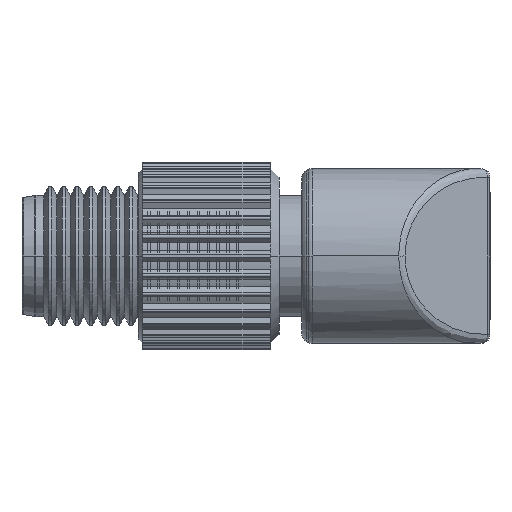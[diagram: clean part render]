
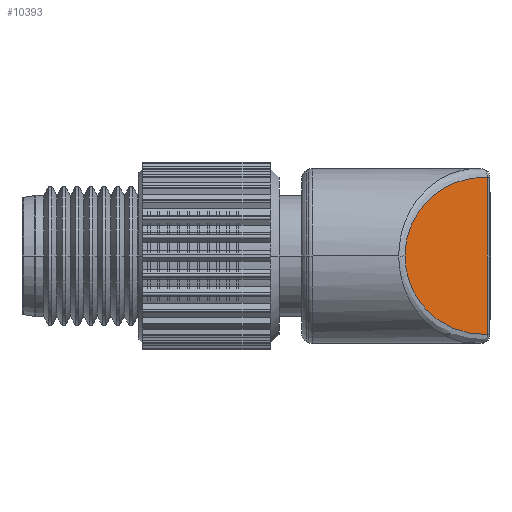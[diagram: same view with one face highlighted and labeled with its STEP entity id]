
A CAD part, front view. The second image highlights one B-rep face of the part: STEP entity #10393.
In plain terms, the highlighted planar face has unit normal (0.707, -0.707, 0).
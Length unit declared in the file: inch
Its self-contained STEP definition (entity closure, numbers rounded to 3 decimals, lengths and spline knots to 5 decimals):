
#2980=DIRECTION('',(0.,0.,-1.));
#2981=VECTOR('',#2980,0.34961);
#2982=CARTESIAN_POINT('',(0.77814,-0.00586,
0.1748));
#2983=LINE('',#2982,#2981);
#2984=CARTESIAN_POINT('',(0.77814,-0.00586,
-0.17481));
#2985=CARTESIAN_POINT('',(0.77383,-0.01017,
-0.17501));
#2986=CARTESIAN_POINT('',(0.76493,-0.01907,
-0.17512));
#2987=CARTESIAN_POINT('',(0.75044,-0.03356,
-0.17413));
#2988=CARTESIAN_POINT('',(0.73559,-0.04841,
-0.17184));
#2989=CARTESIAN_POINT('',(0.72056,-0.06344,
-0.16815));
#2990=CARTESIAN_POINT('',(0.70575,-0.07825,
-0.16309));
#2991=CARTESIAN_POINT('',(0.69135,-0.09265,
-0.15667));
#2992=CARTESIAN_POINT('',(0.67743,-0.10657,
-0.14889));
#2993=CARTESIAN_POINT('',(0.66399,-0.12001,
-0.13967));
#2994=CARTESIAN_POINT('',(0.65124,-0.13276,
-0.12901));
#2995=CARTESIAN_POINT('',(0.64,-0.144,
-0.11764));
#2996=CARTESIAN_POINT('',(0.63074,-0.15326,
-0.10647));
#2997=CARTESIAN_POINT('',(0.62307,-0.16093,
-0.09557));
#2998=CARTESIAN_POINT('',(0.61664,-0.16736,
-0.08484));
#2999=CARTESIAN_POINT('',(0.61134,-0.17266,
-0.07443));
#3000=CARTESIAN_POINT('',(0.60712,-0.17688,
-0.06462));
#3001=CARTESIAN_POINT('',(0.60367,-0.18033,
-0.05514));
#3002=CARTESIAN_POINT('',(0.60067,-0.18333,
-0.04516));
#3003=CARTESIAN_POINT('',(0.59816,-0.18584,
-0.03441));
#3004=CARTESIAN_POINT('',(0.59635,-0.18765,
-0.02364));
#3005=CARTESIAN_POINT('',(0.59519,-0.18881,
-0.01266));
#3006=CARTESIAN_POINT('',(0.59486,-0.18914,
-0.00434));
#3007=CARTESIAN_POINT('',(0.59486,-0.18914,0.));
#3009=CARTESIAN_POINT('',(0.59486,-0.18914,0.));
#3010=CARTESIAN_POINT('',(0.59486,-0.18914,
0.00382));
#3011=CARTESIAN_POINT('',(0.59511,-0.18889,
0.01135));
#3012=CARTESIAN_POINT('',(0.59614,-0.18786,
0.02204));
#3013=CARTESIAN_POINT('',(0.59787,-0.18613,
0.03294));
#3014=CARTESIAN_POINT('',(0.60017,-0.18383,
0.04318));
#3015=CARTESIAN_POINT('',(0.60294,-0.18106,
0.05288));
#3016=CARTESIAN_POINT('',(0.60641,-0.17759,
0.06287));
#3017=CARTESIAN_POINT('',(0.61095,-0.17305,
0.07364));
#3018=CARTESIAN_POINT('',(0.61666,-0.16734,
0.08492));
#3019=CARTESIAN_POINT('',(0.6237,-0.1603,
0.09659));
#3020=CARTESIAN_POINT('',(0.63246,-0.15154,
0.10876));
#3021=CARTESIAN_POINT('',(0.64308,-0.14092,
0.12101));
#3022=CARTESIAN_POINT('',(0.65498,-0.12902,
0.13235));
#3023=CARTESIAN_POINT('',(0.66757,-0.11643,
0.14229));
#3024=CARTESIAN_POINT('',(0.68084,-0.10316,
0.15095));
#3025=CARTESIAN_POINT('',(0.69481,-0.08919,
0.15835));
#3026=CARTESIAN_POINT('',(0.70924,-0.07476,
0.16441));
#3027=CARTESIAN_POINT('',(0.72384,-0.06016,
0.16906));
#3028=CARTESIAN_POINT('',(0.73828,-0.04572,
0.17233));
#3029=CARTESIAN_POINT('',(0.75233,-0.03167,
0.1743));
#3030=CARTESIAN_POINT('',(0.76549,-0.01851,
0.1751));
#3031=CARTESIAN_POINT('',(0.77399,-0.01001,
0.175));
#3032=CARTESIAN_POINT('',(0.77814,-0.00586,
0.1748));
#5898=CARTESIAN_POINT('',(0.77814,-0.00586,
0.1748));
#5899=CARTESIAN_POINT('',(0.77814,-0.00586,
-0.17481));
#5900=VERTEX_POINT('',#5898);
#5901=VERTEX_POINT('',#5899);
#5906=VERTEX_POINT('',#3007);
#10382=CARTESIAN_POINT('',(0.784,0.,-0.5));
#10383=DIRECTION('',(-0.707,0.707,0.));
#10384=DIRECTION('',(-0.707,-0.707,0.));
#10385=AXIS2_PLACEMENT_3D('',#10382,#10383,#10384);
#10386=PLANE('',#10385);
#10388=ORIENTED_EDGE('',*,*,#10387,.T.);
#10389=ORIENTED_EDGE('',*,*,#10265,.T.);
#10390=ORIENTED_EDGE('',*,*,#10373,.T.);
#10391=EDGE_LOOP('',(#10388,#10389,#10390));
#10392=FACE_OUTER_BOUND('',#10391,.F.);
#10393=ADVANCED_FACE('',(#10392),#10386,.F.);
#3008=B_SPLINE_CURVE_WITH_KNOTS('',3,(#2984,#2985,#2986,#2987,#2988,#2989,#2990,
#2991,#2992,#2993,#2994,#2995,#2996,#2997,#2998,#2999,#3000,#3001,#3002,#3003,
#3004,#3005,#3006,#3007),.UNSPECIFIED.,.F.,.F.,(4,1,1,1,1,1,1,1,1,1,1,1,1,1,1,1,
1,1,1,1,1,4),(0.,0.04762,0.09524,0.14286,
0.19048,0.2381,0.28571,0.33333,
0.38095,0.42857,0.47619,0.52381,
0.57143,0.61905,0.66667,0.71429,
0.7619,0.80952,0.85714,0.90476,
0.95238,1.),.UNSPECIFIED.);
#3033=B_SPLINE_CURVE_WITH_KNOTS('',3,(#3009,#3010,#3011,#3012,#3013,#3014,#3015,
#3016,#3017,#3018,#3019,#3020,#3021,#3022,#3023,#3024,#3025,#3026,#3027,#3028,
#3029,#3030,#3031,#3032),.UNSPECIFIED.,.F.,.F.,(4,1,1,1,1,1,1,1,1,1,1,1,1,1,1,1,
1,1,1,1,1,4),(0.,0.04762,0.09524,0.14286,
0.19048,0.2381,0.28571,0.33333,
0.38095,0.42857,0.47619,0.52381,
0.57143,0.61905,0.66667,0.71429,
0.7619,0.80952,0.85714,0.90476,
0.95238,1.),.UNSPECIFIED.);
#10265=EDGE_CURVE('',#5901,#5906,#3008,.T.);
#10373=EDGE_CURVE('',#5906,#5900,#3033,.T.);
#10387=EDGE_CURVE('',#5900,#5901,#2983,.T.);
